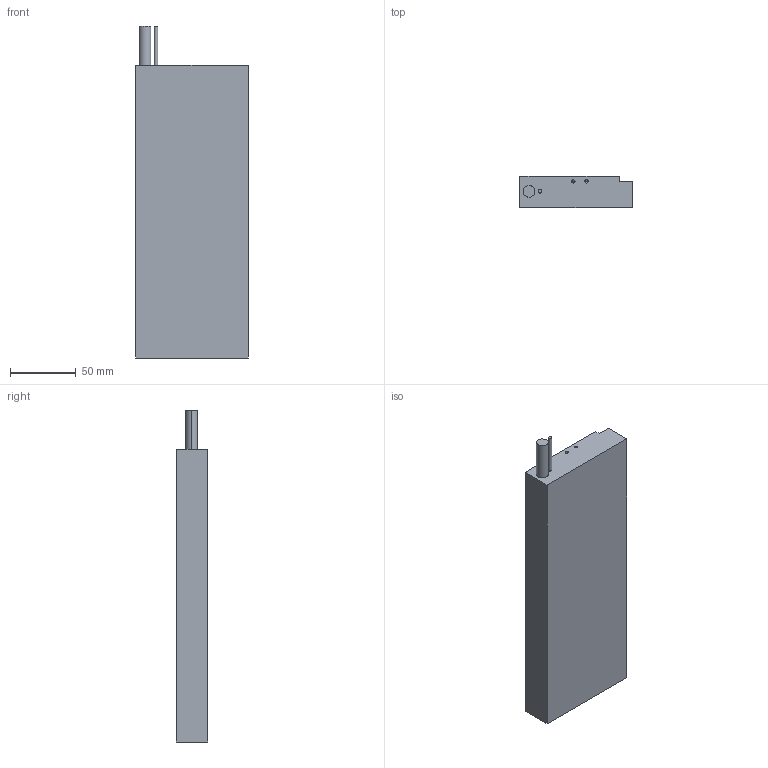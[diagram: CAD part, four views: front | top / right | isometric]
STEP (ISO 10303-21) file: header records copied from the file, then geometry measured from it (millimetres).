
FILE_DESCRIPTION (( 'STEP AP203' ), '1' );
FILE_NAME ('LMSA22.STEP', '2016-05-13T03:33:05', ( '' ), ( '' ), 'SwSTEP 2.0', 'SolidWorks 2015', '' );
FILE_SCHEMA (( 'CONFIG_CONTROL_DESIGN' ));
Length unit declared in the file: millimetre
Products named in the file (1): LMSA22
Bounding box: 86 x 23.7 x 253 mm (x, y, z)
Volume: 446496.5 mm3; surface area: 54621.6 mm2
Topology: 1 solids, 1 shells, 72 faces, 176 edges, 94 vertices
Faces by surface type: cylinder 32, cone 28, plane 12
Entity records: 1981 total; most frequent: DIRECTION 358, CARTESIAN_POINT 315, ORIENTED_EDGE 296, EDGE_CURVE 148, AXIS2_PLACEMENT_3D 137, VERTEX_POINT 94, EDGE_LOOP 88, LINE 84
